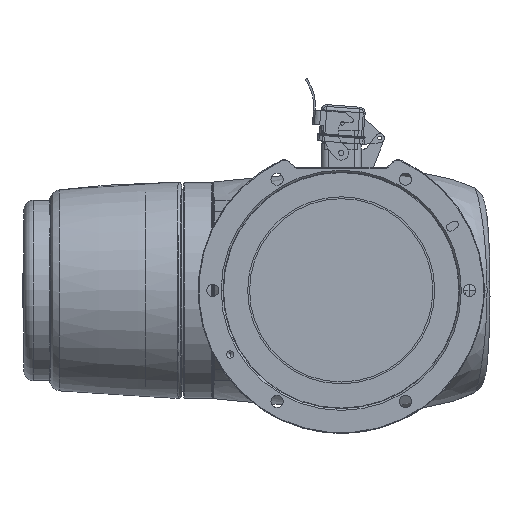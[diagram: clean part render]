
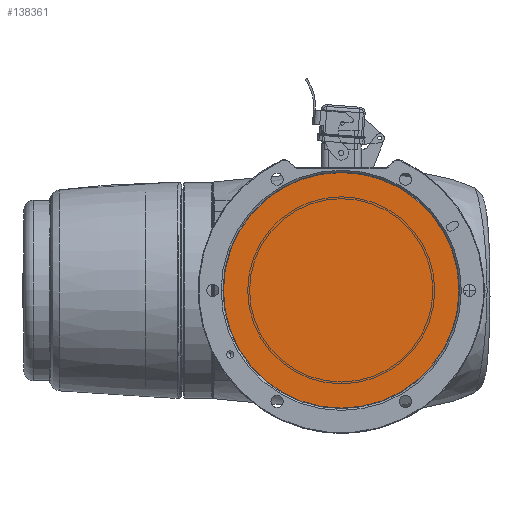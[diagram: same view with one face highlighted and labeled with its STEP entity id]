
A CAD part, front view. The second image highlights one B-rep face of the part: STEP entity #138361.
In plain terms, the highlighted planar face has unit normal (0, -1, 0).
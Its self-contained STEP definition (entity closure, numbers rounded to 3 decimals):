
#5783 = CIRCLE ( 'NONE', #164061, 64.25 ) ;
#6384 = AXIS2_PLACEMENT_3D ( 'NONE', #187214, #29272, #99581 ) ;
#22100 = EDGE_LOOP ( 'NONE', ( #55474, #28877 ) ) ;
#28877 = ORIENTED_EDGE ( 'NONE', *, *, #71550, .F. ) ;
#29272 = DIRECTION ( 'NONE',  ( 0., 1., 0. ) ) ;
#30862 = DIRECTION ( 'NONE',  ( 0.5, 0., 0.866 ) ) ;
#42914 = AXIS2_PLACEMENT_3D ( 'NONE', #137447, #207752, #49799 ) ;
#46553 = FACE_OUTER_BOUND ( 'NONE', #22100, .T. ) ;
#49799 = DIRECTION ( 'NONE',  ( 0.5, 0., 0.866 ) ) ;
#55474 = ORIENTED_EDGE ( 'NONE', *, *, #200962, .F. ) ;
#71550 = EDGE_CURVE ( 'NONE', #108922, #186342, #5783, .T. ) ;
#99581 = DIRECTION ( 'NONE',  ( 0.5, 0., 0.866 ) ) ;
#101489 = CARTESIAN_POINT ( 'NONE',  ( 32.125, 1., 55.642 ) ) ;
#108922 = VERTEX_POINT ( 'NONE', #101489 ) ;
#116918 = PLANE ( 'NONE',  #6384 ) ;
#118508 = CARTESIAN_POINT ( 'NONE',  ( 0., 1., 0. ) ) ;
#137447 = CARTESIAN_POINT ( 'NONE',  ( 0., 1., 0. ) ) ;
#138361 = ADVANCED_FACE ( 'NONE', ( #46553 ), #116918, .F. ) ;
#142337 = CIRCLE ( 'NONE', #42914, 64.25 ) ;
#164061 = AXIS2_PLACEMENT_3D ( 'NONE', #118508, #188795, #30862 ) ;
#179581 = CARTESIAN_POINT ( 'NONE',  ( -32.125, 1., -55.642 ) ) ;
#186342 = VERTEX_POINT ( 'NONE', #179581 ) ;
#187214 = CARTESIAN_POINT ( 'NONE',  ( 0., 1., 0. ) ) ;
#188795 = DIRECTION ( 'NONE',  ( 0., 1., 0. ) ) ;
#200962 = EDGE_CURVE ( 'NONE', #186342, #108922, #142337, .T. ) ;
#207752 = DIRECTION ( 'NONE',  ( 0., 1., 0. ) ) ;
